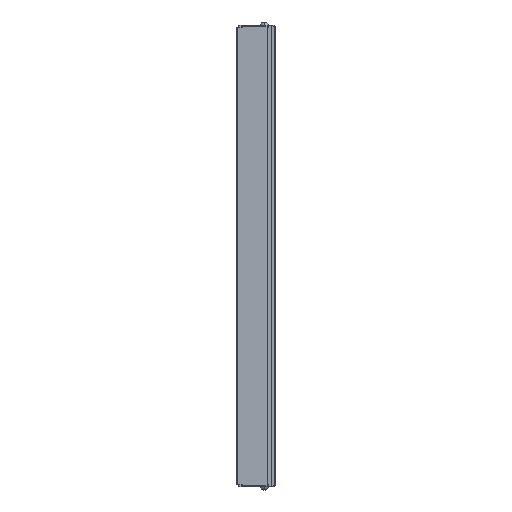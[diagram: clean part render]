
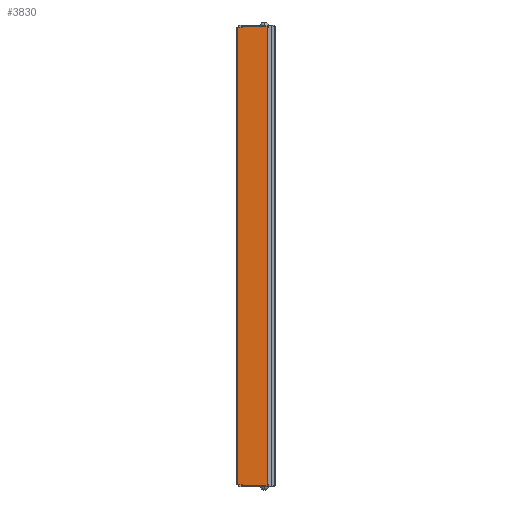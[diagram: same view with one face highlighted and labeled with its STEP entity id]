
A CAD part, left-side view. The second image highlights one B-rep face of the part: STEP entity #3830.
In plain terms, the highlighted planar face has unit normal (-1, 0, 0).
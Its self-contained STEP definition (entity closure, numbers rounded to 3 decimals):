
#478=DIRECTION('',(0.,1.,0.));
#479=VECTOR('',#478,3.303);
#480=CARTESIAN_POINT('',(-14.,13.197,162.));
#481=LINE('',#480,#479);
#839=DIRECTION('',(0.,1.,0.));
#840=VECTOR('',#839,17.497);
#841=CARTESIAN_POINT('',(-14.,-4.3,163.));
#842=LINE('',#841,#840);
#847=DIRECTION('',(0.,0.,1.));
#848=VECTOR('',#847,326.);
#849=CARTESIAN_POINT('',(-14.,-4.3,-163.));
#850=LINE('',#849,#848);
#1202=DIRECTION('',(0.,0.,-1.));
#1203=VECTOR('',#1202,324.);
#1204=CARTESIAN_POINT('',(-14.,16.5,162.));
#1205=LINE('',#1204,#1203);
#1206=DIRECTION('',(0.,0.,1.));
#1207=VECTOR('',#1206,1.);
#1208=CARTESIAN_POINT('',(-14.,13.197,-163.));
#1209=LINE('',#1208,#1207);
#1210=DIRECTION('',(0.,1.,0.));
#1211=VECTOR('',#1210,3.303);
#1212=CARTESIAN_POINT('',(-14.,13.197,-162.));
#1213=LINE('',#1212,#1211);
#1214=DIRECTION('',(0.,0.,1.));
#1215=VECTOR('',#1214,1.);
#1216=CARTESIAN_POINT('',(-14.,13.197,162.));
#1217=LINE('',#1216,#1215);
#1222=DIRECTION('',(0.,-1.,0.));
#1223=VECTOR('',#1222,17.497);
#1224=CARTESIAN_POINT('',(-14.,13.197,-163.));
#1225=LINE('',#1224,#1223);
#1810=CARTESIAN_POINT('',(-14.,16.5,-162.));
#1811=VERTEX_POINT('',#1810);
#1820=CARTESIAN_POINT('',(-14.,16.5,162.));
#1821=VERTEX_POINT('',#1820);
#2002=CARTESIAN_POINT('',(-14.,13.197,163.));
#2003=VERTEX_POINT('',#2002);
#2028=CARTESIAN_POINT('',(-14.,-4.3,163.));
#2029=VERTEX_POINT('',#2028);
#2074=CARTESIAN_POINT('',(-14.,13.197,162.));
#2076=VERTEX_POINT('',#2074);
#2284=CARTESIAN_POINT('',(-14.,13.197,-163.));
#2285=VERTEX_POINT('',#2284);
#2286=CARTESIAN_POINT('',(-14.,-4.3,-163.));
#2287=VERTEX_POINT('',#2286);
#2328=CARTESIAN_POINT('',(-14.,13.197,-162.));
#2329=VERTEX_POINT('',#2328);
#3813=CARTESIAN_POINT('',(-14.,16.5,-162.));
#3814=DIRECTION('',(-1.,0.,0.));
#3815=DIRECTION('',(0.,-1.,0.));
#3816=AXIS2_PLACEMENT_3D('',#3813,#3814,#3815);
#3817=PLANE('',#3816);
#3818=ORIENTED_EDGE('',*,*,#3213,.F.);
#3820=ORIENTED_EDGE('',*,*,#3819,.F.);
#3822=ORIENTED_EDGE('',*,*,#3821,.T.);
#3823=ORIENTED_EDGE('',*,*,#2447,.T.);
#3824=ORIENTED_EDGE('',*,*,#3808,.F.);
#3825=ORIENTED_EDGE('',*,*,#2860,.F.);
#3826=ORIENTED_EDGE('',*,*,#3183,.T.);
#3827=ORIENTED_EDGE('',*,*,#3198,.F.);
#3828=EDGE_LOOP('',(#3818,#3820,#3822,#3823,#3824,#3825,#3826,#3827));
#3829=FACE_OUTER_BOUND('',#3828,.F.);
#2447=EDGE_CURVE('',#2329,#1811,#1213,.T.);
#2860=EDGE_CURVE('',#2076,#1821,#481,.T.);
#3183=EDGE_CURVE('',#2076,#2003,#1217,.T.);
#3198=EDGE_CURVE('',#2029,#2003,#842,.T.);
#3213=EDGE_CURVE('',#2287,#2029,#850,.T.);
#3808=EDGE_CURVE('',#1821,#1811,#1205,.T.);
#3819=EDGE_CURVE('',#2285,#2287,#1225,.T.);
#3821=EDGE_CURVE('',#2285,#2329,#1209,.T.);
#3830=ADVANCED_FACE('',(#3829),#3817,.T.);
